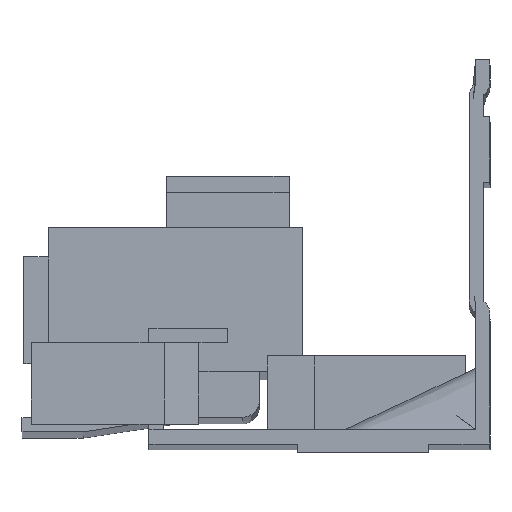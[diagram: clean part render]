
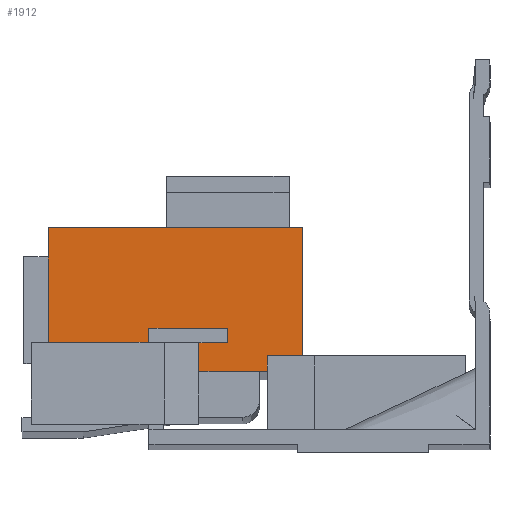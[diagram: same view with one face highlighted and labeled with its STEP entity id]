
A CAD part, front view. The second image highlights one B-rep face of the part: STEP entity #1912.
In plain terms, the highlighted planar face has unit normal (0, -1, 0).
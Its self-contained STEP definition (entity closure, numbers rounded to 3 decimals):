
#73 = FACE_OUTER_BOUND ( 'NONE', #780, .T. ) ;
#616 = ORIENTED_EDGE ( 'NONE', *, *, #4429, .T. ) ;
#617 = ORIENTED_EDGE ( 'NONE', *, *, #4431, .F. ) ;
#618 = ORIENTED_EDGE ( 'NONE', *, *, #4433, .F. ) ;
#619 = ORIENTED_EDGE ( 'NONE', *, *, #4435, .F. ) ;
#620 = ORIENTED_EDGE ( 'NONE', *, *, #4456, .F. ) ;
#621 = ORIENTED_EDGE ( 'NONE', *, *, #4493, .F. ) ;
#622 = ORIENTED_EDGE ( 'NONE', *, *, #4534, .T. ) ;
#623 = ORIENTED_EDGE ( 'NONE', *, *, #4562, .T. ) ;
#624 = ORIENTED_EDGE ( 'NONE', *, *, #4436, .T. ) ;
#625 = ORIENTED_EDGE ( 'NONE', *, *, #4439, .T. ) ;
#772 = ORIENTED_EDGE ( 'NONE', *, *, #4443, .T. ) ;
#773 = ORIENTED_EDGE ( 'NONE', *, *, #4440, .T. ) ;
#780 = EDGE_LOOP ( 'NONE', ( #772, #773, #625, #624, #623, #622, #621, #620, #619, #618, #617, #616 ) ) ;
#1302 = LINE ( 'NONE', #2668, #1303 ) ;
#1303 = VECTOR ( 'NONE', #2669, 1000. ) ;
#1304 = LINE ( 'NONE', #2671, #1305 ) ;
#1305 = VECTOR ( 'NONE', #2672, 1000. ) ;
#1306 = LINE ( 'NONE', #2674, #1307 ) ;
#1307 = VECTOR ( 'NONE', #2675, 1000. ) ;
#1308 = LINE ( 'NONE', #2677, #1309 ) ;
#1309 = VECTOR ( 'NONE', #2678, 1000. ) ;
#1310 = LINE ( 'NONE', #2679, #1311 ) ;
#1311 = VECTOR ( 'NONE', #2680, 1000. ) ;
#1312 = LINE ( 'NONE', #2683, #1313 ) ;
#1313 = VECTOR ( 'NONE', #2684, 1000. ) ;
#1314 = LINE ( 'NONE', #2685, #1315 ) ;
#1315 = VECTOR ( 'NONE', #2686, 1000. ) ;
#1316 = LINE ( 'NONE', #2689, #1317 ) ;
#1317 = VECTOR ( 'NONE', #2690, 1000. ) ;
#1330 = LINE ( 'NONE', #2709, #1331 ) ;
#1331 = VECTOR ( 'NONE', #2710, 1000. ) ;
#1368 = LINE ( 'NONE', #2765, #1369 ) ;
#1369 = VECTOR ( 'NONE', #2766, 1000. ) ;
#1410 = LINE ( 'NONE', #2827, #1411 ) ;
#1411 = VECTOR ( 'NONE', #2828, 1000. ) ;
#1438 = LINE ( 'NONE', #2869, #1439 ) ;
#1439 = VECTOR ( 'NONE', #2870, 1000. ) ;
#1912 = ADVANCED_FACE ( 'NONE', ( #73 ), #4110, .F. ) ;
#2438 = CARTESIAN_POINT ( 'NONE',  ( -32., -20., -23.608 ) ) ;
#2498 = CARTESIAN_POINT ( 'NONE',  ( -53.9, -20., -9.558 ) ) ;
#2515 = CARTESIAN_POINT ( 'NONE',  ( -22.9, -20., -9.558 ) ) ;
#2520 = CARTESIAN_POINT ( 'NONE',  ( -22.9, -20., -25.181 ) ) ;
#2560 = CARTESIAN_POINT ( 'NONE',  ( -27.15, -20., -27.058 ) ) ;
#2612 = CARTESIAN_POINT ( 'NONE',  ( -35.5, -20., -27.058 ) ) ;
#2668 = CARTESIAN_POINT ( 'NONE',  ( -35.5, -20., -27.058 ) ) ;
#2669 = DIRECTION ( 'NONE',  ( 0., 0., -1. ) ) ;
#2671 = CARTESIAN_POINT ( 'NONE',  ( -32., -20., -23.608 ) ) ;
#2672 = DIRECTION ( 'NONE',  ( 1., 0., 0. ) ) ;
#2674 = CARTESIAN_POINT ( 'NONE',  ( -32., -20., -21.831 ) ) ;
#2675 = DIRECTION ( 'NONE',  ( 0., 0., 1. ) ) ;
#2677 = CARTESIAN_POINT ( 'NONE',  ( -41.6, -20., -21.858 ) ) ;
#2678 = DIRECTION ( 'NONE',  ( -1., 0., 0. ) ) ;
#2679 = CARTESIAN_POINT ( 'NONE',  ( -22.9, -20., -27.058 ) ) ;
#2680 = DIRECTION ( 'NONE',  ( 0., 0., 1. ) ) ;
#2682 = CARTESIAN_POINT ( 'NONE',  ( -53.9, -20., -23.558 ) ) ;
#2683 = CARTESIAN_POINT ( 'NONE',  ( -49.9, -20., -25.181 ) ) ;
#2684 = DIRECTION ( 'NONE',  ( 1., 0., 0. ) ) ;
#2685 = CARTESIAN_POINT ( 'NONE',  ( -27.15, -20., -27.058 ) ) ;
#2686 = DIRECTION ( 'NONE',  ( 0., 0., 1. ) ) ;
#2689 = CARTESIAN_POINT ( 'NONE',  ( -49.9, -20., -27.058 ) ) ;
#2690 = DIRECTION ( 'NONE',  ( 1., 0., 0. ) ) ;
#2696 = CARTESIAN_POINT ( 'NONE',  ( -35.5, -20., -23.608 ) ) ;
#2709 = CARTESIAN_POINT ( 'NONE',  ( -41.6, -20., -35.931 ) ) ;
#2710 = DIRECTION ( 'NONE',  ( 0., 0., -1. ) ) ;
#2732 = CARTESIAN_POINT ( 'NONE',  ( -41.6, -20., -21.858 ) ) ;
#2765 = CARTESIAN_POINT ( 'NONE',  ( -49.9, -20., -23.558 ) ) ;
#2766 = DIRECTION ( 'NONE',  ( -1., 0., 0. ) ) ;
#2827 = CARTESIAN_POINT ( 'NONE',  ( -53.9, -20., -29.558 ) ) ;
#2828 = DIRECTION ( 'NONE',  ( 0., 0., -1. ) ) ;
#2869 = CARTESIAN_POINT ( 'NONE',  ( -53.9, -20., -9.558 ) ) ;
#2870 = DIRECTION ( 'NONE',  ( -1., 0., 0. ) ) ;
#2891 = CARTESIAN_POINT ( 'NONE',  ( -32., -20., -21.858 ) ) ;
#2892 = CARTESIAN_POINT ( 'NONE',  ( -27.15, -20., -25.181 ) ) ;
#2909 = CARTESIAN_POINT ( 'NONE',  ( -41.6, -20., -23.558 ) ) ;
#4107 = DIRECTION ( 'NONE',  ( -1., 0., 0. ) ) ;
#4108 = DIRECTION ( 'NONE',  ( 0., 1., 0. ) ) ;
#4109 = CARTESIAN_POINT ( 'NONE',  ( -49.9, -20., -27.058 ) ) ;
#4110 = PLANE ( 'NONE',  #4701 ) ;
#4262 = VERTEX_POINT ( 'NONE', #2438 ) ;
#4322 = VERTEX_POINT ( 'NONE', #2498 ) ;
#4334 = VERTEX_POINT ( 'NONE', #2515 ) ;
#4337 = VERTEX_POINT ( 'NONE', #2520 ) ;
#4362 = VERTEX_POINT ( 'NONE', #2560 ) ;
#4393 = VERTEX_POINT ( 'NONE', #2612 ) ;
#4429 = EDGE_CURVE ( 'NONE', #4447, #4393, #1302, .T. ) ;
#4431 = EDGE_CURVE ( 'NONE', #4447, #4262, #1304, .T. ) ;
#4433 = EDGE_CURVE ( 'NONE', #4262, #4574, #1306, .T. ) ;
#4435 = EDGE_CURVE ( 'NONE', #4574, #4471, #1308, .T. ) ;
#4436 = EDGE_CURVE ( 'NONE', #4337, #4334, #1310, .T. ) ;
#4438 = VERTEX_POINT ( 'NONE', #2682 ) ;
#4439 = EDGE_CURVE ( 'NONE', #4575, #4337, #1312, .T. ) ;
#4440 = EDGE_CURVE ( 'NONE', #4362, #4575, #1314, .T. ) ;
#4443 = EDGE_CURVE ( 'NONE', #4393, #4362, #1316, .T. ) ;
#4447 = VERTEX_POINT ( 'NONE', #2696 ) ;
#4456 = EDGE_CURVE ( 'NONE', #4471, #4584, #1330, .T. ) ;
#4471 = VERTEX_POINT ( 'NONE', #2732 ) ;
#4493 = EDGE_CURVE ( 'NONE', #4584, #4438, #1368, .T. ) ;
#4534 = EDGE_CURVE ( 'NONE', #4322, #4438, #1410, .T. ) ;
#4562 = EDGE_CURVE ( 'NONE', #4334, #4322, #1438, .T. ) ;
#4574 = VERTEX_POINT ( 'NONE', #2891 ) ;
#4575 = VERTEX_POINT ( 'NONE', #2892 ) ;
#4584 = VERTEX_POINT ( 'NONE', #2909 ) ;
#4701 = AXIS2_PLACEMENT_3D ( 'NONE', #4109, #4108, #4107 ) ;
